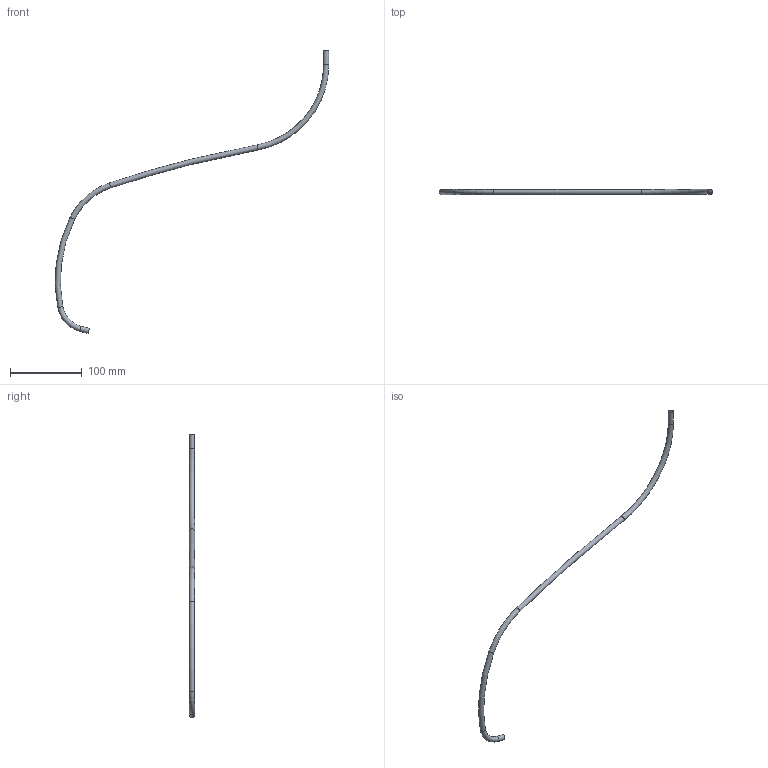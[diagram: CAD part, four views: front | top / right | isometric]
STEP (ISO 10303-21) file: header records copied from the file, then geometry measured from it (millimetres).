
FILE_DESCRIPTION(/* description */ (''),/* implementation_level */ '2;1');
FILE_NAME(/* name */ 'C:\Users\user\Documents\Inventor\Home Ventilator CPAP\Air pump hose.stp',/* time_stamp */ '2020-03-29T22:37:52+02:00',/* author */ ('user'),/* organization */ (''),/* preprocessor_version */ 'ST-DEVELOPER v16.5',/* originating_system */ 'Autodesk Inventor 2017',/* authorisation */ '');
FILE_SCHEMA (('AUTOMOTIVE_DESIGN { 1 0 10303 214 3 1 1 }'));
Length unit declared in the file: millimetre
Products named in the file (1): Air pump hose
Bounding box: 380.74 x 7.2 x 393.89 mm (x, y, z)
Volume: 8064.7 mm3; surface area: 26907.2 mm2
Topology: 1 solids, 1 shells, 16 faces, 30 edges, 16 vertices
Faces by surface type: torus 10, cylinder 4, plane 2
Full cylindrical faces by diameter (mm): 6 x2, 7.2 x2
Entity records: 381 total; most frequent: DIRECTION 66, CARTESIAN_POINT 49, AXIS2_PLACEMENT_3D 33, EDGE_LOOP 32, ORIENTED_EDGE 32, STYLED_ITEM 17, FACE_BOUND 16, FACE_OUTER_BOUND 16
